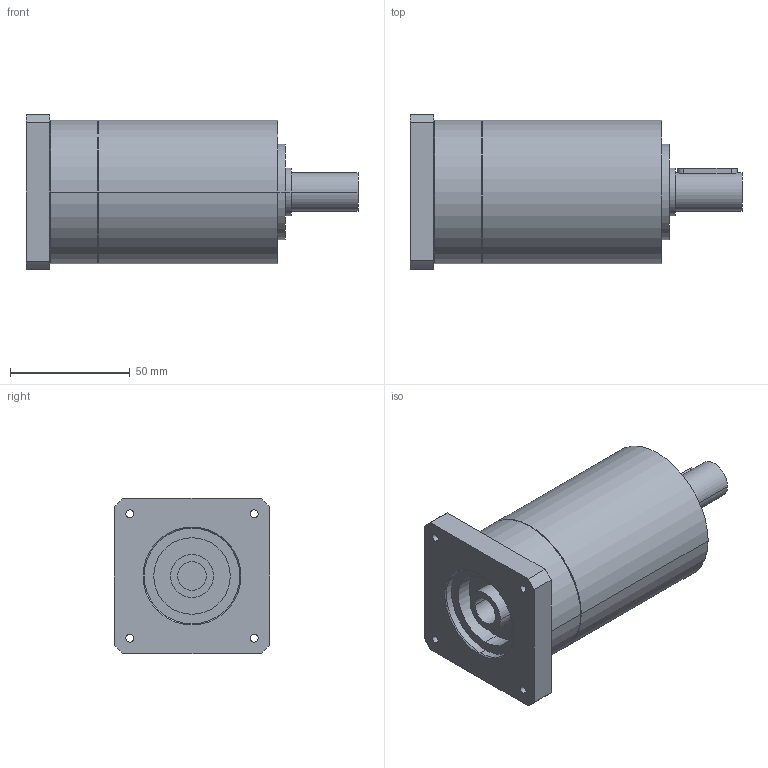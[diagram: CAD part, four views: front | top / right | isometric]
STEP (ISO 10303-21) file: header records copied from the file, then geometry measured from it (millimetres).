
FILE_DESCRIPTION(('CoCreate Modeling STEP Export'),'2;1');
FILE_NAME('GPR75_ig-9-12-16-20-24-30-36_16_B14_12_P34.stp','2014-08-25T16:32:58',(''),(''),'CoCreate Modeling STEP processor for AP214 (Solid Model)','CoCreate Modeling 16.00C 25-Feb-2009 (C) Parametric Technology GmbH','');
FILE_SCHEMA(('AUTOMOTIVE_DESIGN { 1 0 10303 214 1 1 1 1 }'));
Length unit declared in the file: millimetre
Products named in the file (2): GPR75_ig-9-12-16-20-24-30-36_16_B14_12_P34
Assembly tree (1 placements, depth 2):
  GPR75_ig-9-12-16-20-24-30-36_16_B14_12_P34
    GPR75_ig-9-12-16-20-24-30-36_16_B14_12_P34
Bounding box: 138.9 x 65 x 65 mm (x, y, z)
Volume: 309638.2 mm3; surface area: 34774.7 mm2
Topology: 1 solids, 1 shells, 72 faces, 191 edges, 133 vertices
Faces by surface type: cylinder 42, plane 22, cone 8
Entity records: 1974 total; most frequent: ORIENTED_EDGE 378, CARTESIAN_POINT 365, DIRECTION 268, EDGE_CURVE 189, VERTEX_POINT 133, AXIS2_PLACEMENT_3D 100, EDGE_LOOP 94, FACE_OUTER_BOUND 72
